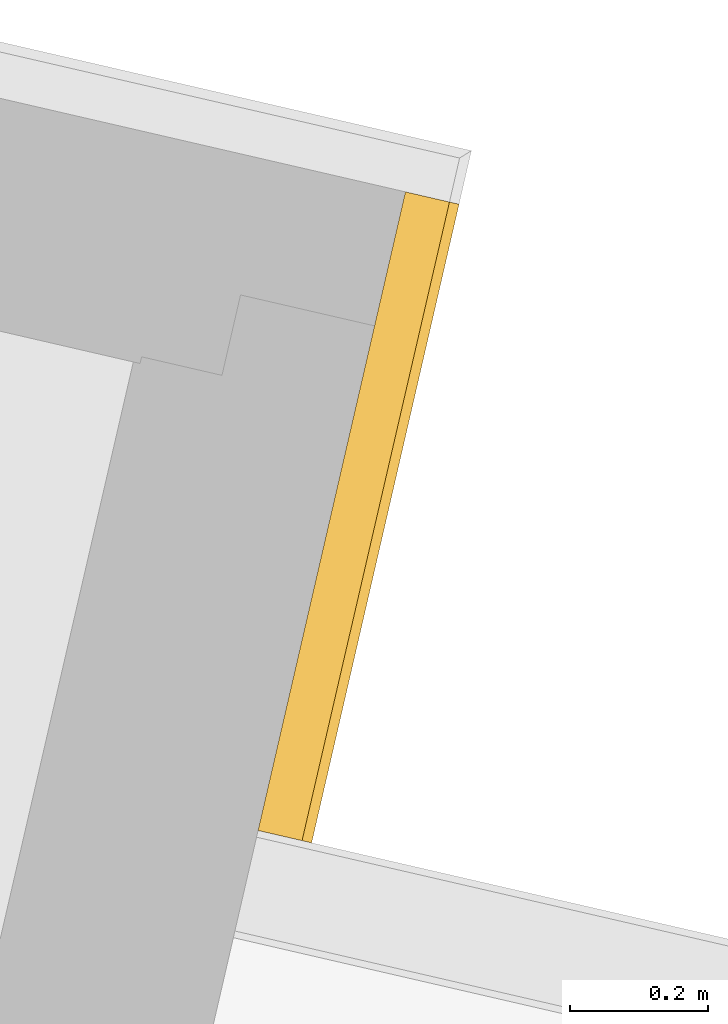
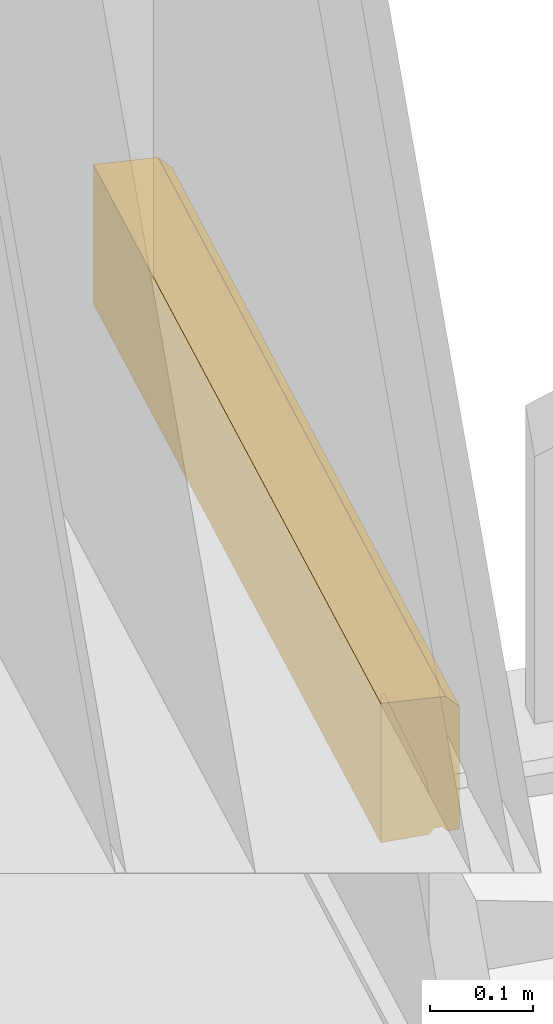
# One storey, part 42 of 62: 1 covering.
"""IFC2X3 building model written with IfcOpenShell, lengths in metres."""

from ifc_helpers import new_model, entity, si_unit, converted_unit, derived_unit, money_unit, direction, frame, origin_with_axes, place, context, subcontext, project, spatial, faceted_brep, material, type_object, element, save


model = new_model("IFC2X3")

# Units and contexts
model_context = context("Model", 3, precision=1e-05, world=origin_with_axes(), true_north=direction((0.0, 1.0)))
body_context = subcontext(model_context, "Body", "Model", "MODEL_VIEW")
ifc_project = project(units=[si_unit("LENGTHUNIT", "METRE"), si_unit("AREAUNIT", "SQUARE_METRE"), si_unit("VOLUMEUNIT", "CUBIC_METRE"), converted_unit("PLANEANGLEUNIT", "DEGREE", entity("IfcPlaneAngleMeasure", 0.0174532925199), si_unit("PLANEANGLEUNIT", "RADIAN"), dimensions=[0, 0, 0, 0, 0, 0, 0]), si_unit("SOLIDANGLEUNIT", "STERADIAN"), money_unit("EUR"), converted_unit("TIMEUNIT", "Year", entity("IfcTimeMeasure", 31556926.0), si_unit("TIMEUNIT", "SECOND"), dimensions=[0, 0, 1, 0, 0, 0, 0]), si_unit("MASSUNIT", "GRAM", prefix="KILO"), si_unit("THERMODYNAMICTEMPERATUREUNIT", "DEGREE_CELSIUS"), si_unit("LUMINOUSINTENSITYUNIT", "LUMEN"), si_unit("ENERGYUNIT", "JOULE", prefix="MEGA"), derived_unit("THERMALCONDUCTANCEUNIT", [(si_unit("POWERUNIT", "WATT"), 1), (si_unit("LENGTHUNIT", "METRE"), -1), (si_unit("THERMODYNAMICTEMPERATUREUNIT", "KELVIN"), -1)]), derived_unit("SPECIFICHEATCAPACITYUNIT", [(si_unit("ENERGYUNIT", "JOULE"), 1), (si_unit("MASSUNIT", "GRAM", prefix="KILO"), -1), (si_unit("THERMODYNAMICTEMPERATUREUNIT", "KELVIN"), -1)]), derived_unit("MASSDENSITYUNIT", [(si_unit("MASSUNIT", "GRAM", prefix="KILO"), 1), (si_unit("VOLUMEUNIT", "CUBIC_METRE"), -1)])], contexts=[model_context])

# Site, building, storey
site_placement = place(None, origin_with_axes())
site = spatial("IfcSite", under=ifc_project, at=site_placement, Name="Site", CompositionType="ELEMENT")
building_placement = place(site_placement, origin_with_axes())
building = spatial("IfcBuilding", under=site, at=building_placement, Name="Bâtiment", CompositionType="ELEMENT")
storey_placement = place(building_placement, frame((0.0, 0.0, 8.16), z_axis=(0.0, 0.0, 1.0), x_axis=(1.0, 0.0, 0.0)))
storey = spatial("IfcBuildingStorey", under=building, at=storey_placement, Name="R+3", CompositionType="ELEMENT", Elevation=8.16)

# Covering
ifc_material = material(Name="Finition sol - Carrelage")
covering_type = type_object("IfcCoveringType", Name="Bandeau de façade composite 80 x 165", PredefinedType="USERDEFINED")
covering_placement = place(storey_placement, frame((-1.37510588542, 1.43149488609, -0.165), z_axis=(0.0, 0.0, 1.0), x_axis=(0.22487619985, 0.974387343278, 0.0)))
element("IfcCovering", 1, at=covering_placement, inside=storey, type_object=covering_type, material=ifc_material, Name="Bandeaux de façade préfa composite", ObjectType="MOLDING", PredefinedType="USERDEFINED", context=body_context, shape_type="Brep", body=[
    faceted_brep([(0.0, 0.0125528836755, 0.0), (1.02071027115, 0.0125528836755, 0.0), (1.02071027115, 0.0, 0.0), (0.0, 0.0, 0.0), (1.00740392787, 0.0177527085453, 0.00621912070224), (1.01551044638, 0.0177527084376, 0.00621912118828), (0.0, 0.0177527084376, 0.00621912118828), (0.953263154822, 0.0177527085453, 0.00621912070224), (1.01551044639, 0.0, 0.00621912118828), (1.00740392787, 0.0, 0.00621912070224), (0.953263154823, 0.0, 0.00621912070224), (0.953263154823, 0.0, 0.144794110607), (0.0, 0.0, 0.144794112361), (0.0, 0.0, 0.00621912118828), (0.0, 0.0258592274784, 0.00621912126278), (0.953263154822, 0.0258592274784, 0.00621912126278), (0.95326315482, 0.08, 0.00621912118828), (0.95326315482, 0.08, 0.165), (0.953263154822, 0.0142855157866, 0.160000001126), (0.0, 0.0142855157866, 0.160000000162), (0.0, 0.08, 0.165), (0.0, 0.08, 0.00621912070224), (0.0, 0.0310590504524, 0.0), (0.953263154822, 0.0310590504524, 0.0), (0.95326315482, 0.08, 0.0), (0.0, 0.08, 0.0)], [[[0, 1, 2, 3]], [[4, 5, 1, 0, 6, 7]], [[5, 8, 2, 1]], [[3, 2, 8, 9, 10, 11, 12, 13]], [[0, 3, 13, 6]], [[9, 8, 5, 4]], [[14, 15, 7, 6]], [[7, 10, 9, 4]], [[7, 15, 16, 17, 18, 11, 10]], [[12, 11, 18, 19]], [[14, 6, 13, 12, 19, 20, 21]], [[22, 23, 15, 14]], [[24, 16, 15, 23]], [[17, 16, 24, 25, 21, 20]], [[19, 18, 17, 20]], [[25, 22, 14, 21]], [[25, 24, 23, 22]]]),
])

save(model, "model.ifc")
